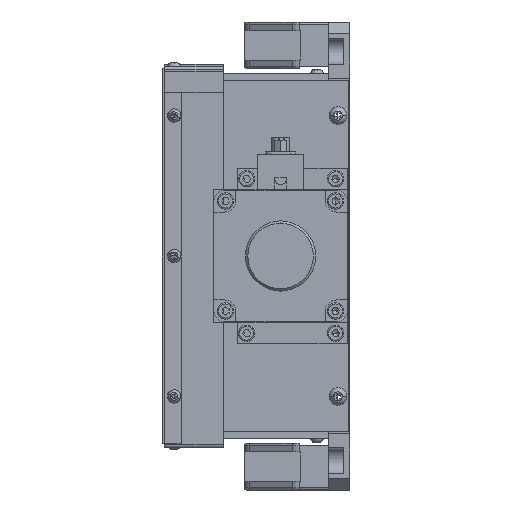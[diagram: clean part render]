
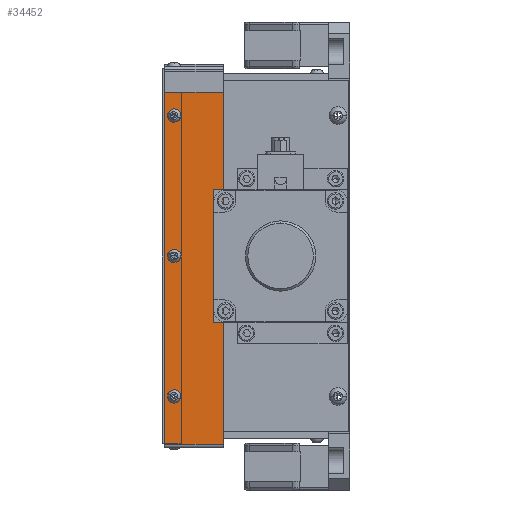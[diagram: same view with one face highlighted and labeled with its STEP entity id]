
A CAD part, left-side view. The second image highlights one B-rep face of the part: STEP entity #34452.
In plain terms, the highlighted planar face has unit normal (-1, 0, 0).
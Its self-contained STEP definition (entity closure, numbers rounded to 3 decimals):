
#604 = CARTESIAN_POINT ( 'NONE',  ( -81., 66., 60. ) ) ;
#1091 = EDGE_CURVE ( 'NONE', #18472, #15292, #12764, .T. ) ;
#1142 = EDGE_CURVE ( 'NONE', #15047, #27394, #26414, .T. ) ;
#1445 = ORIENTED_EDGE ( 'NONE', *, *, #4477, .F. ) ;
#1740 = DIRECTION ( 'NONE',  ( -1., 0., 0. ) ) ;
#2054 = ORIENTED_EDGE ( 'NONE', *, *, #13976, .F. ) ;
#2843 = CARTESIAN_POINT ( 'NONE',  ( -81., 45., 79. ) ) ;
#2949 = CARTESIAN_POINT ( 'NONE',  ( -81., 70., -80.5 ) ) ;
#2985 = EDGE_LOOP ( 'NONE', ( #27436, #12223 ) ) ;
#3086 = CARTESIAN_POINT ( 'NONE',  ( -81., 70., 79. ) ) ;
#3345 = DIRECTION ( 'NONE',  ( 0., 0., 1. ) ) ;
#3366 = FACE_BOUND ( 'NONE', #16383, .T. ) ;
#3367 = CARTESIAN_POINT ( 'NONE',  ( -81., 45., -80.5 ) ) ;
#3482 = AXIS2_PLACEMENT_3D ( 'NONE', #10319, #29354, #13071 ) ;
#3491 = EDGE_LOOP ( 'NONE', ( #28131, #24419, #25020, #25132 ) ) ;
#4055 = VERTEX_POINT ( 'NONE', #3367 ) ;
#4477 = EDGE_CURVE ( 'NONE', #15292, #18472, #35259, .T. ) ;
#4558 = DIRECTION ( 'NONE',  ( -1., 0., 0. ) ) ;
#5611 = CARTESIAN_POINT ( 'NONE',  ( -81., 45., 79. ) ) ;
#8484 = AXIS2_PLACEMENT_3D ( 'NONE', #10259, #29304, #13020 ) ;
#9049 = ORIENTED_EDGE ( 'NONE', *, *, #1091, .F. ) ;
#9813 = CARTESIAN_POINT ( 'NONE',  ( -81., 70., -80.5 ) ) ;
#10033 = EDGE_LOOP ( 'NONE', ( #1445, #9049 ) ) ;
#10251 = VERTEX_POINT ( 'NONE', #5611 ) ;
#10259 = CARTESIAN_POINT ( 'NONE',  ( -81., 66., 0. ) ) ;
#10319 = CARTESIAN_POINT ( 'NONE',  ( -81., 66., 0. ) ) ;
#10606 = FACE_BOUND ( 'NONE', #2985, .T. ) ;
#10875 = AXIS2_PLACEMENT_3D ( 'NONE', #2843, #27356, #11056 ) ;
#11056 = DIRECTION ( 'NONE',  ( 0., 0., 1. ) ) ;
#11582 = CARTESIAN_POINT ( 'NONE',  ( -81., 66., -2. ) ) ;
#12223 = ORIENTED_EDGE ( 'NONE', *, *, #23085, .F. ) ;
#12764 = CIRCLE ( 'NONE', #34682, 2. ) ;
#13020 = DIRECTION ( 'NONE',  ( 0., 0., 1. ) ) ;
#13071 = DIRECTION ( 'NONE',  ( 0., 0., 1. ) ) ;
#13542 = VECTOR ( 'NONE', #22009, 1000. ) ;
#13634 = CARTESIAN_POINT ( 'NONE',  ( -81., 66., -60. ) ) ;
#13923 = CIRCLE ( 'NONE', #22370, 2. ) ;
#13930 = EDGE_CURVE ( 'NONE', #23881, #28327, #17602, .T. ) ;
#13976 = EDGE_CURVE ( 'NONE', #27394, #15047, #35069, .T. ) ;
#14169 = CARTESIAN_POINT ( 'NONE',  ( -81., 66., 62. ) ) ;
#15047 = VERTEX_POINT ( 'NONE', #23577 ) ;
#15292 = VERTEX_POINT ( 'NONE', #14169 ) ;
#16103 = AXIS2_PLACEMENT_3D ( 'NONE', #604, #19617, #3345 ) ;
#16350 = DIRECTION ( 'NONE',  ( 0., 0., 1. ) ) ;
#16383 = EDGE_LOOP ( 'NONE', ( #22117, #2054 ) ) ;
#17602 = CIRCLE ( 'NONE', #24233, 2. ) ;
#17846 = CARTESIAN_POINT ( 'NONE',  ( -81., 70., -81. ) ) ;
#18028 = CARTESIAN_POINT ( 'NONE',  ( -81., 66., -60. ) ) ;
#18472 = VERTEX_POINT ( 'NONE', #20317 ) ;
#18658 = FACE_BOUND ( 'NONE', #10033, .T. ) ;
#18859 = LINE ( 'NONE', #24227, #32516 ) ;
#18986 = EDGE_CURVE ( 'NONE', #32915, #4055, #19130, .T. ) ;
#19130 = LINE ( 'NONE', #9813, #32778 ) ;
#19138 = LINE ( 'NONE', #17846, #33624 ) ;
#19617 = DIRECTION ( 'NONE',  ( -1., 0., 0. ) ) ;
#20317 = CARTESIAN_POINT ( 'NONE',  ( -81., 66., 58. ) ) ;
#20777 = DIRECTION ( 'NONE',  ( 0., 0., 1. ) ) ;
#20833 = CARTESIAN_POINT ( 'NONE',  ( -81., 66., 60. ) ) ;
#21873 = PLANE ( 'NONE',  #10875 ) ;
#22009 = DIRECTION ( 'NONE',  ( 0., 1., 0. ) ) ;
#22117 = ORIENTED_EDGE ( 'NONE', *, *, #1142, .F. ) ;
#22370 = AXIS2_PLACEMENT_3D ( 'NONE', #13634, #32652, #16350 ) ;
#23085 = EDGE_CURVE ( 'NONE', #28327, #23881, #13923, .T. ) ;
#23097 = CARTESIAN_POINT ( 'NONE',  ( -81., 66., -58. ) ) ;
#23577 = CARTESIAN_POINT ( 'NONE',  ( -81., 66., 2. ) ) ;
#23618 = DIRECTION ( 'NONE',  ( 0., 0., 1. ) ) ;
#23864 = VERTEX_POINT ( 'NONE', #25845 ) ;
#23881 = VERTEX_POINT ( 'NONE', #23097 ) ;
#24227 = CARTESIAN_POINT ( 'NONE',  ( -81., 45., -81. ) ) ;
#24233 = AXIS2_PLACEMENT_3D ( 'NONE', #18028, #1740, #20777 ) ;
#24419 = ORIENTED_EDGE ( 'NONE', *, *, #18986, .T. ) ;
#24699 = EDGE_CURVE ( 'NONE', #4055, #10251, #18859, .T. ) ;
#25020 = ORIENTED_EDGE ( 'NONE', *, *, #24699, .T. ) ;
#25132 = ORIENTED_EDGE ( 'NONE', *, *, #32195, .T. ) ;
#25845 = CARTESIAN_POINT ( 'NONE',  ( -81., 70., 79. ) ) ;
#26414 = CIRCLE ( 'NONE', #8484, 2. ) ;
#26961 = DIRECTION ( 'NONE',  ( 0., 0., 1. ) ) ;
#27356 = DIRECTION ( 'NONE',  ( -1., 0., 0. ) ) ;
#27394 = VERTEX_POINT ( 'NONE', #11582 ) ;
#27436 = ORIENTED_EDGE ( 'NONE', *, *, #13930, .F. ) ;
#28131 = ORIENTED_EDGE ( 'NONE', *, *, #33780, .T. ) ;
#28327 = VERTEX_POINT ( 'NONE', #31162 ) ;
#29304 = DIRECTION ( 'NONE',  ( -1., 0., 0. ) ) ;
#29354 = DIRECTION ( 'NONE',  ( -1., 0., 0. ) ) ;
#31162 = CARTESIAN_POINT ( 'NONE',  ( -81., 66., -62. ) ) ;
#31450 = FACE_OUTER_BOUND ( 'NONE', #3491, .T. ) ;
#32195 = EDGE_CURVE ( 'NONE', #10251, #23864, #35225, .T. ) ;
#32516 = VECTOR ( 'NONE', #26961, 1000. ) ;
#32652 = DIRECTION ( 'NONE',  ( -1., 0., 0. ) ) ;
#32778 = VECTOR ( 'NONE', #34305, 1000. ) ;
#32915 = VERTEX_POINT ( 'NONE', #2949 ) ;
#33624 = VECTOR ( 'NONE', #34158, 1000. ) ;
#33780 = EDGE_CURVE ( 'NONE', #23864, #32915, #19138, .T. ) ;
#34158 = DIRECTION ( 'NONE',  ( 0., 0., -1. ) ) ;
#34305 = DIRECTION ( 'NONE',  ( 0., -1., 0. ) ) ;
#34452 = ADVANCED_FACE ( 'NONE', ( #18658, #10606, #3366, #31450 ), #21873, .T. ) ;
#34682 = AXIS2_PLACEMENT_3D ( 'NONE', #20833, #4558, #23618 ) ;
#35069 = CIRCLE ( 'NONE', #3482, 2. ) ;
#35225 = LINE ( 'NONE', #3086, #13542 ) ;
#35259 = CIRCLE ( 'NONE', #16103, 2. ) ;
